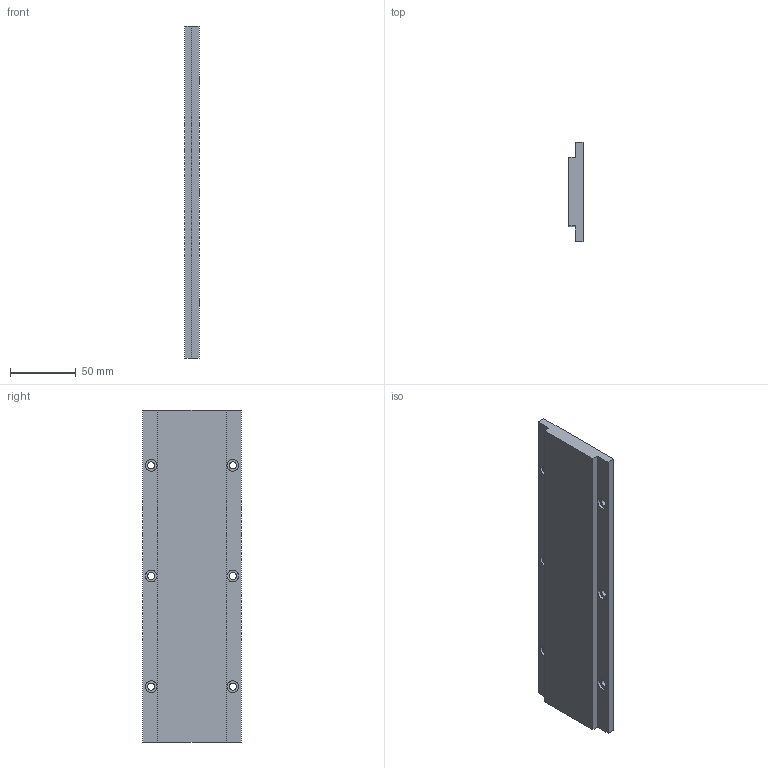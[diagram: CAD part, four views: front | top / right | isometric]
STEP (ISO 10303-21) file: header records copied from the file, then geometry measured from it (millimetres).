
FILE_DESCRIPTION (( 'STEP AP214' ), '1' );
FILE_NAME ('2-WKM50-252.STEP', '2025-09-05T11:48:32', ( '' ), ( '' ), 'SwSTEP 2.0', 'SolidWorks 2016', '' );
FILE_SCHEMA (( 'AUTOMOTIVE_DESIGN' ));
Length unit declared in the file: millimetre
Products named in the file (1): 2-WKM50-252
Bounding box: 10.8 x 75 x 252 mm (x, y, z)
Volume: 175006.3 mm3; surface area: 45116.6 mm2
Topology: 1 solids, 1 shells, 40 faces, 96 edges, 64 vertices
Faces by surface type: cylinder 24, plane 16
Entity records: 1246 total; most frequent: DIRECTION 226, CARTESIAN_POINT 201, ORIENTED_EDGE 192, EDGE_CURVE 96, AXIS2_PLACEMENT_3D 89, VERTEX_POINT 64, EDGE_LOOP 58, LINE 48
